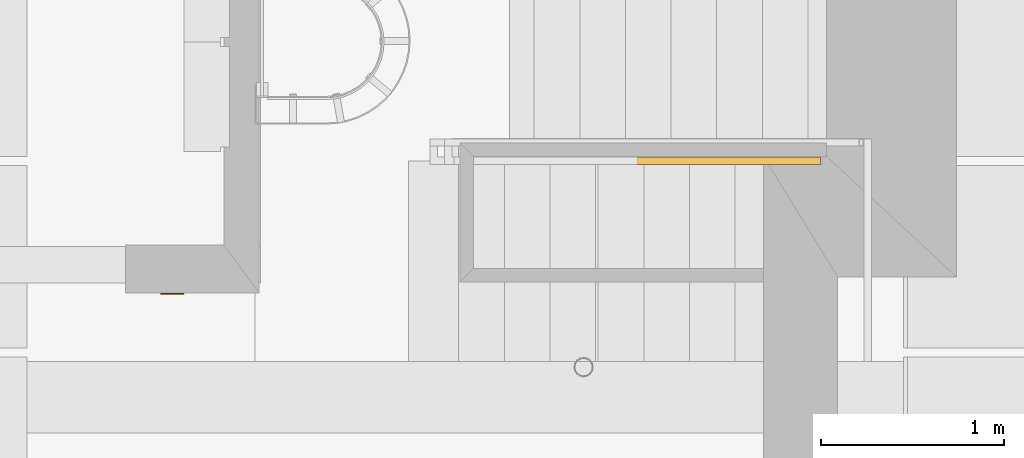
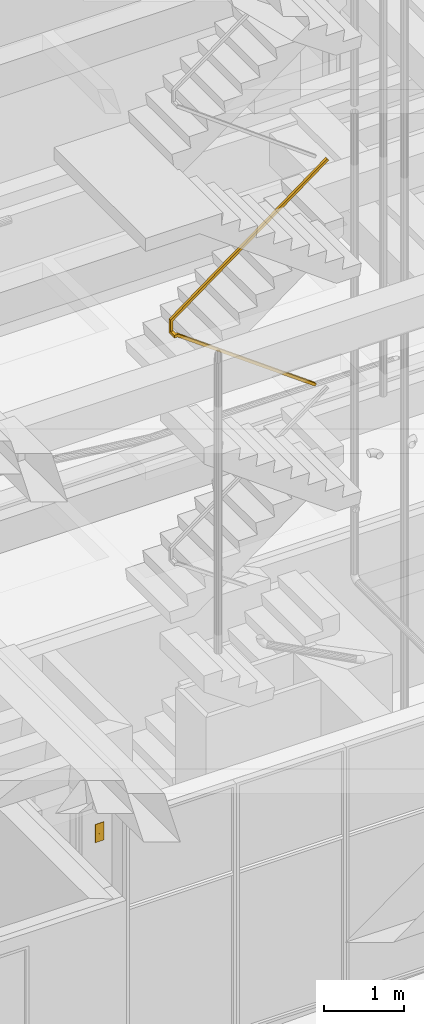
# One storey, part 29 of 106: 1 door, 1 railing.
"""IFC2X3 building model written with IfcOpenShell, lengths in metres."""

from ifc_helpers import new_model, entity, si_unit, converted_unit, derived_unit, money_unit, direction, frame, origin_with_axes, place, context, subcontext, project, spatial, faceted_brep, material, type_object, element, save


model = new_model("IFC2X3")

# Units and contexts
model_context = context("Model", 3, precision=1e-05, world=origin_with_axes(), true_north=direction((0.0, 1.0)))
body_context = subcontext(model_context, "Body", "Model", "MODEL_VIEW", scale=1.0)
ifc_project = project(units=[si_unit("LENGTHUNIT", "METRE"), si_unit("AREAUNIT", "SQUARE_METRE"), si_unit("VOLUMEUNIT", "CUBIC_METRE"), si_unit("ABSORBEDDOSEUNIT", "GRAY"), si_unit("AMOUNTOFSUBSTANCEUNIT", "MOLE"), si_unit("DOSEEQUIVALENTUNIT", "SIEVERT"), si_unit("ELECTRICCAPACITANCEUNIT", "FARAD"), si_unit("ELECTRICCHARGEUNIT", "COULOMB"), si_unit("ELECTRICCONDUCTANCEUNIT", "SIEMENS"), si_unit("ELECTRICCURRENTUNIT", "AMPERE"), si_unit("ELECTRICRESISTANCEUNIT", "OHM"), si_unit("ELECTRICVOLTAGEUNIT", "VOLT"), si_unit("ENERGYUNIT", "JOULE"), si_unit("FORCEUNIT", "NEWTON"), si_unit("FREQUENCYUNIT", "HERTZ"), si_unit("ILLUMINANCEUNIT", "LUX"), si_unit("INDUCTANCEUNIT", "HENRY"), si_unit("LUMINOUSFLUXUNIT", "LUMEN"), si_unit("LUMINOUSINTENSITYUNIT", "CANDELA"), si_unit("MAGNETICFLUXDENSITYUNIT", "TESLA"), si_unit("MAGNETICFLUXUNIT", "WEBER"), si_unit("MASSUNIT", "GRAM"), converted_unit("PLANEANGLEUNIT", "degree", entity("IfcReal", 0.0174532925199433), si_unit("PLANEANGLEUNIT", "RADIAN"), dimensions=[0, 0, 0, 0, 0, 0, 0]), si_unit("POWERUNIT", "WATT"), si_unit("PRESSUREUNIT", "PASCAL"), si_unit("RADIOACTIVITYUNIT", "BECQUEREL"), si_unit("SOLIDANGLEUNIT", "STERADIAN"), si_unit("THERMODYNAMICTEMPERATUREUNIT", "KELVIN"), si_unit("TIMEUNIT", "SECOND"), derived_unit("ACCELERATIONUNIT", [(si_unit("LENGTHUNIT", "METRE"), 1), (si_unit("TIMEUNIT", "SECOND"), -2)]), derived_unit("ANGULARVELOCITYUNIT", [(converted_unit("PLANEANGLEUNIT", "degree", entity("IfcReal", 0.0174532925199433), si_unit("PLANEANGLEUNIT", "RADIAN"), dimensions=[0, 0, 0, 0, 0, 0, 0]), 1), (si_unit("TIMEUNIT", "SECOND"), -1)]), derived_unit("CURVATUREUNIT", [(converted_unit("PLANEANGLEUNIT", "degree", entity("IfcReal", 0.0174532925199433), si_unit("PLANEANGLEUNIT", "RADIAN"), dimensions=[0, 0, 0, 0, 0, 0, 0]), 1), (si_unit("LENGTHUNIT", "METRE"), -1)]), derived_unit("DYNAMICVISCOSITYUNIT", [(si_unit("PRESSUREUNIT", "PASCAL"), 1), (si_unit("TIMEUNIT", "SECOND"), 1)]), derived_unit("HEATFLUXDENSITYUNIT", [(si_unit("POWERUNIT", "WATT"), 1), (si_unit("LENGTHUNIT", "METRE"), -2)]), derived_unit("HEATINGVALUEUNIT", [(si_unit("ENERGYUNIT", "JOULE"), 1), (si_unit("MASSUNIT", "GRAM"), -1)]), derived_unit("INTEGERCOUNTRATEUNIT", [(si_unit("TIMEUNIT", "SECOND"), -1)]), derived_unit("IONCONCENTRATIONUNIT", [(si_unit("MASSUNIT", "GRAM"), 1), (si_unit("VOLUMEUNIT", "CUBIC_METRE"), -1)]), derived_unit("ISOTHERMALMOISTURECAPACITYUNIT", [(si_unit("VOLUMEUNIT", "CUBIC_METRE"), 1), (si_unit("MASSUNIT", "GRAM"), -1)]), derived_unit("KINEMATICVISCOSITYUNIT", [(si_unit("AREAUNIT", "SQUARE_METRE"), 1), (si_unit("TIMEUNIT", "SECOND"), -1)]), derived_unit("LINEARFORCEUNIT", [(si_unit("FORCEUNIT", "NEWTON"), 1), (si_unit("LENGTHUNIT", "METRE"), -1)]), derived_unit("LINEARMOMENTUNIT", [(si_unit("FORCEUNIT", "NEWTON"), 1), (si_unit("LENGTHUNIT", "METRE"), -1)]), derived_unit("LINEARSTIFFNESSUNIT", [(si_unit("FORCEUNIT", "NEWTON"), 1), (si_unit("LENGTHUNIT", "METRE"), -1)]), derived_unit("LINEARVELOCITYUNIT", [(si_unit("LENGTHUNIT", "METRE"), 1), (si_unit("TIMEUNIT", "SECOND"), -1)]), derived_unit("LUMINOUSINTENSITYDISTRIBUTIONUNIT", [(si_unit("LUMINOUSINTENSITYUNIT", "CANDELA"), 1), (si_unit("LUMINOUSFLUXUNIT", "LUMEN"), -1)]), derived_unit("MASSDENSITYUNIT", [(si_unit("MASSUNIT", "GRAM"), 1), (si_unit("VOLUMEUNIT", "CUBIC_METRE"), -1)]), derived_unit("MASSFLOWRATEUNIT", [(si_unit("MASSUNIT", "GRAM"), 1), (si_unit("TIMEUNIT", "SECOND"), -1)]), derived_unit("MASSPERLENGTHUNIT", [(si_unit("MASSUNIT", "GRAM"), 1), (si_unit("LENGTHUNIT", "METRE"), -1)]), derived_unit("MODULUSOFELASTICITYUNIT", [(si_unit("FORCEUNIT", "NEWTON"), 1), (si_unit("AREAUNIT", "SQUARE_METRE"), -1)]), derived_unit("MODULUSOFLINEARSUBGRADEREACTIONUNIT", [(si_unit("FORCEUNIT", "NEWTON"), 1), (si_unit("LENGTHUNIT", "METRE"), -2)]), derived_unit("MODULUSOFROTATIONALSUBGRADEREACTIONUNIT", [(si_unit("FORCEUNIT", "NEWTON"), 1), (si_unit("LENGTHUNIT", "METRE"), 1)]), derived_unit("MODULUSOFSUBGRADEREACTIONUNIT", [(si_unit("FORCEUNIT", "NEWTON"), 1), (si_unit("VOLUMEUNIT", "CUBIC_METRE"), -1)]), derived_unit("MOISTUREDIFFUSIVITYUNIT", [(si_unit("VOLUMEUNIT", "CUBIC_METRE"), 1), (si_unit("TIMEUNIT", "SECOND"), -1)]), derived_unit("MOLECULARWEIGHTUNIT", [(si_unit("MASSUNIT", "GRAM"), 1), (si_unit("AMOUNTOFSUBSTANCEUNIT", "MOLE"), -1)]), derived_unit("PLANARFORCEUNIT", [(si_unit("FORCEUNIT", "NEWTON"), 1), (si_unit("LENGTHUNIT", "METRE"), -2)]), derived_unit("ROTATIONALFREQUENCYUNIT", [(si_unit("TIMEUNIT", "SECOND"), -1)]), derived_unit("ROTATIONALMASSUNIT", [(si_unit("MASSUNIT", "GRAM"), 1), (si_unit("LENGTHUNIT", "METRE"), 2)]), derived_unit("ROTATIONALSTIFFNESSUNIT", [(si_unit("FORCEUNIT", "NEWTON"), 1), (si_unit("LENGTHUNIT", "METRE"), 1), (converted_unit("PLANEANGLEUNIT", "degree", entity("IfcReal", 0.0174532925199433), si_unit("PLANEANGLEUNIT", "RADIAN"), dimensions=[0, 0, 0, 0, 0, 0, 0]), -1)]), derived_unit("SECTIONAREAINTEGRALUNIT", [(si_unit("LENGTHUNIT", "METRE"), 5)]), derived_unit("SECTIONMODULUSUNIT", [(si_unit("LENGTHUNIT", "METRE"), 3)]), derived_unit("SHEARMODULUSUNIT", [(si_unit("FORCEUNIT", "NEWTON"), 1), (si_unit("AREAUNIT", "SQUARE_METRE"), -1)]), derived_unit("SOUNDPOWERUNIT", [(si_unit("ENERGYUNIT", "JOULE"), 1), (si_unit("TIMEUNIT", "SECOND"), -1)]), derived_unit("SPECIFICHEATCAPACITYUNIT", [(si_unit("FORCEUNIT", "NEWTON"), 1), (si_unit("MASSUNIT", "GRAM"), -1), (si_unit("THERMODYNAMICTEMPERATUREUNIT", "KELVIN"), -1)]), derived_unit("TEMPERATUREGRADIENTUNIT", [(si_unit("THERMODYNAMICTEMPERATUREUNIT", "KELVIN"), 1), (si_unit("LENGTHUNIT", "METRE"), -1)]), derived_unit("THERMALADMITTANCEUNIT", [(si_unit("POWERUNIT", "WATT"), 1), (si_unit("AREAUNIT", "SQUARE_METRE"), -1), (si_unit("THERMODYNAMICTEMPERATUREUNIT", "KELVIN"), -1)]), derived_unit("THERMALCONDUCTANCEUNIT", [(si_unit("POWERUNIT", "WATT"), 1), (si_unit("LENGTHUNIT", "METRE"), -1), (si_unit("THERMODYNAMICTEMPERATUREUNIT", "KELVIN"), -1)]), derived_unit("THERMALEXPANSIONCOEFFICIENTUNIT", [(si_unit("THERMODYNAMICTEMPERATUREUNIT", "KELVIN"), -1)]), derived_unit("THERMALRESISTANCEUNIT", [(si_unit("AREAUNIT", "SQUARE_METRE"), 1), (si_unit("POWERUNIT", "WATT"), -1)]), derived_unit("THERMALTRANSMITTANCEUNIT", [(si_unit("POWERUNIT", "WATT"), 1), (si_unit("AREAUNIT", "SQUARE_METRE"), -1), (si_unit("THERMODYNAMICTEMPERATUREUNIT", "KELVIN"), -1)]), derived_unit("TORQUEUNIT", [(si_unit("FORCEUNIT", "NEWTON"), 1), (si_unit("LENGTHUNIT", "METRE"), 1)]), derived_unit("VAPORPERMEABILITYUNIT", [(si_unit("MASSUNIT", "GRAM"), 1), (si_unit("TIMEUNIT", "SECOND"), -1)]), derived_unit("VOLUMETRICFLOWRATEUNIT", [(si_unit("VOLUMEUNIT", "CUBIC_METRE"), 1), (si_unit("TIMEUNIT", "SECOND"), -1)]), derived_unit("WARPINGCONSTANTUNIT", [(si_unit("LENGTHUNIT", "METRE"), 6)]), derived_unit("WARPINGMOMENTUNIT", [(si_unit("FORCEUNIT", "NEWTON"), 1), (si_unit("LENGTHUNIT", "METRE"), 2)]), money_unit("GBP")], contexts=[model_context])

# Site, building, storey, space
site_placement = place(None, origin_with_axes())
site = spatial("IfcSite", under=ifc_project, at=site_placement, Name="Site", CompositionType="ELEMENT")
building_placement = place(site_placement, origin_with_axes())
building = spatial("IfcBuilding", under=site, at=building_placement, Name="Building01", CompositionType="ELEMENT")
storey_placement = place(building_placement, origin_with_axes())
storey = spatial("IfcBuildingStorey", under=building, at=storey_placement, Name="GF", CompositionType="ELEMENT", Elevation=0.0)
space_placement = place(storey_placement, frame((9.419099, 6.725761, 0.0), z_axis=(0.0, 0.0, 1.0), x_axis=(0.0, -1.0, 0.0)))
space = spatial("IfcSpace", under=storey, at=space_placement, Name="ENTRANCE", CompositionType="ELEMENT", InteriorOrExteriorSpace="NOTDEFINED")

# Door
ifc_material_1 = material(Name="A_BSUK_Doors")
door_style = type_object("IfcDoorStyle", Name="A-ElevatorCallButton", ConstructionType="USERDEFINED", ParameterTakesPrecedence=False, Sizeable=False)
door_placement = place(storey_placement, frame((10.783958, 6.725761, 1.0), z_axis=(0.0, 0.0, 1.0), x_axis=(1.0, 0.0, 0.0)))
element("IfcDoor", 1, at=door_placement, inside=space, type_object=door_style, material=ifc_material_1, Name="A-ElevatorCallButton", ObjectType="A-ElevatorCallButton", OverallHeight=0.2794, OverallWidth=0.127, context=body_context, shape_type="Brep", body=[
    faceted_brep([(0.0, 0.0, 0.2794), (0.127, 0.0, 0.2794), (0.127, 0.0, 0.0), (0.0, 0.0, 0.0), (0.0, -0.00635, 0.0), (0.127, -0.00635, 0.0), (0.127, -0.00635, 0.2794), (0.0, -0.00635, 0.2794)], [[[0, 1, 2, 3]], [[4, 3, 2, 5]], [[4, 5, 6, 7]], [[5, 2, 1, 6]], [[6, 1, 0, 7]], [[7, 0, 3, 4]]]),
    faceted_brep([(0.068085, -0.00635, 0.099282), (0.063204, -0.00635, 0.098428), (0.058368, -0.00635, 0.099508), (0.054313, -0.00635, 0.102357), (0.051657, -0.00635, 0.10654), (0.050803, -0.00635, 0.111421), (0.051883, -0.00635, 0.116257), (0.054732, -0.00635, 0.120312), (0.058915, -0.00635, 0.122968), (0.063796, -0.00635, 0.123822), (0.068632, -0.00635, 0.122742), (0.072687, -0.00635, 0.119893), (0.075343, -0.00635, 0.11571), (0.076197, -0.00635, 0.110829), (0.075117, -0.00635, 0.105993), (0.072268, -0.00635, 0.101938), (0.054732, -0.009525, 0.120312), (0.058915, -0.009525, 0.122968), (0.063796, -0.009525, 0.123822), (0.068632, -0.009525, 0.122742), (0.072687, -0.009525, 0.119893), (0.075343, -0.009525, 0.11571), (0.076197, -0.009525, 0.110829), (0.075117, -0.009525, 0.105993), (0.072268, -0.009525, 0.101938), (0.068085, -0.009525, 0.099282), (0.063204, -0.009525, 0.098428), (0.058368, -0.009525, 0.099508), (0.054313, -0.009525, 0.102357), (0.051657, -0.009525, 0.10654), (0.050803, -0.009525, 0.111421), (0.051883, -0.009525, 0.116257)], [[[0, 1, 2, 3, 4, 5, 6, 7, 8, 9, 10, 11, 12, 13, 14, 15]], [[7, 16, 17, 8]], [[8, 17, 18, 9]], [[9, 18, 19, 10]], [[10, 19, 20, 11]], [[11, 20, 21, 12]], [[12, 21, 22, 13]], [[13, 22, 23, 14]], [[14, 23, 24, 15]], [[15, 24, 25, 0]], [[0, 25, 26, 1]], [[1, 26, 27, 2]], [[2, 27, 28, 3]], [[3, 28, 29, 4]], [[4, 29, 30, 5]], [[5, 30, 31, 6]], [[6, 31, 16, 7]], [[23, 22, 21, 20, 19, 18, 17, 16, 31, 30, 29, 28, 27, 26, 25, 24]]]),
    faceted_brep([(0.073576, -0.00635, 0.160544), (0.06985, -0.00635, 0.157276), (0.065158, -0.00635, 0.155684), (0.060213, -0.00635, 0.156008), (0.055769, -0.00635, 0.158199), (0.052501, -0.00635, 0.161925), (0.050909, -0.00635, 0.166617), (0.051233, -0.00635, 0.171562), (0.053424, -0.00635, 0.176006), (0.05715, -0.00635, 0.179274), (0.061842, -0.00635, 0.180866), (0.066787, -0.00635, 0.180542), (0.071231, -0.00635, 0.178351), (0.074499, -0.00635, 0.174625), (0.076091, -0.00635, 0.169933), (0.075767, -0.00635, 0.164988), (0.051233, -0.009525, 0.171562), (0.053424, -0.009525, 0.176006), (0.05715, -0.009525, 0.179274), (0.061842, -0.009525, 0.180866), (0.066787, -0.009525, 0.180542), (0.071231, -0.009525, 0.178351), (0.074499, -0.009525, 0.174625), (0.076091, -0.009525, 0.169933), (0.075767, -0.009525, 0.164988), (0.073576, -0.009525, 0.160544), (0.06985, -0.009525, 0.157276), (0.065158, -0.009525, 0.155684), (0.060213, -0.009525, 0.156008), (0.055769, -0.009525, 0.158199), (0.052501, -0.009525, 0.161925), (0.050909, -0.009525, 0.166617)], [[[0, 1, 2, 3, 4, 5, 6, 7, 8, 9, 10, 11, 12, 13, 14, 15]], [[7, 16, 17, 8]], [[8, 17, 18, 9]], [[9, 18, 19, 10]], [[10, 19, 20, 11]], [[11, 20, 21, 12]], [[12, 21, 22, 13]], [[13, 22, 23, 14]], [[14, 23, 24, 15]], [[15, 24, 25, 0]], [[0, 25, 26, 1]], [[1, 26, 27, 2]], [[2, 27, 28, 3]], [[3, 28, 29, 4]], [[4, 29, 30, 5]], [[5, 30, 31, 6]], [[6, 31, 16, 7]], [[23, 22, 21, 20, 19, 18, 17, 16, 31, 30, 29, 28, 27, 26, 25, 24]]]),
])

# Railing
ifc_material_2 = material(Name="A_BSUK_Steel_Miscellaneous")
railing_type = type_object("IfcRailingType", Name="A-Handrail-900mm", PredefinedType="NOTDEFINED")
railing_placement = place(storey_placement, frame((14.609584, 7.55, 8.74), z_axis=(0.0, 0.0, 1.0), x_axis=(1.0, 0.0, 0.0)))
element("IfcRailing", 2, at=railing_placement, inside=storey, type_object=railing_type, material=ifc_material_2, Name="A-Handrail-900mm", ObjectType="A-Handrail-900mm", PredefinedType="HANDRAIL", context=body_context, shape_type="Brep", body=[
    faceted_brep([(-0.726206, -0.02, 0.312846), (-0.75, -0.02, 0.345), (-0.75, 0.02, 0.345), (-0.726206, 0.02, 0.312846), (-0.728586, -0.016, 0.316062), (-0.728586, 0.016, 0.316062), (-0.747621, 0.016, 0.341785), (-0.747621, -0.016, 0.341785), (0.023794, 0.02, 0.867846), (0.0, 0.02, 0.9), (0.0, -0.02, 0.9), (0.023794, -0.02, 0.867846), (0.021414, -0.016, 0.871062), (0.002379, -0.016, 0.896785), (0.002379, 0.016, 0.896785), (0.021414, 0.016, 0.871062)], [[[0, 1, 2, 3], [4, 5, 6, 7]], [[8, 9, 10, 11], [12, 13, 14, 15]], [[11, 0, 3, 8]], [[10, 1, 0, 11]], [[9, 2, 1, 10]], [[8, 3, 2, 9]], [[15, 5, 4, 12]], [[12, 4, 7, 13]], [[13, 7, 6, 14]], [[14, 6, 5, 15]]]),
    faceted_brep([(-1.476206, -0.02, -0.242154), (-1.5, -0.02, -0.21), (-1.5, 0.02, -0.21), (-1.476206, 0.02, -0.242154), (-1.478586, -0.016, -0.238938), (-1.478586, 0.016, -0.238938), (-1.497621, 0.016, -0.213215), (-1.497621, -0.016, -0.213215), (-0.726206, 0.02, 0.312846), (-0.75, 0.02, 0.345), (-0.75, -0.02, 0.345), (-0.726206, -0.02, 0.312846), (-0.728586, -0.016, 0.316062), (-0.747621, -0.016, 0.341785), (-0.747621, 0.016, 0.341785), (-0.728586, 0.016, 0.316062)], [[[0, 1, 2, 3], [4, 5, 6, 7]], [[8, 9, 10, 11], [12, 13, 14, 15]], [[11, 0, 3, 8]], [[10, 1, 0, 11]], [[9, 2, 1, 10]], [[8, 3, 2, 9]], [[15, 5, 4, 12]], [[12, 4, 7, 13]], [[13, 7, 6, 14]], [[14, 6, 5, 15]]]),
    faceted_brep([(-1.476206, 0.02, -0.242154), (-1.5, 0.02, -0.21), (-1.5, -0.02, -0.21), (-1.476206, -0.02, -0.242154), (-1.478586, -0.016, -0.238938), (-1.497621, -0.016, -0.213215), (-1.497621, 0.016, -0.213215), (-1.478586, 0.016, -0.238938), (-2.23, -0.02, -0.799961), (-2.23, 0.02, -0.799961), (-2.27, -0.02, -0.7798), (-2.27, 0.02, -0.7798), (-2.234, -0.016, -0.797945), (-2.234, 0.016, -0.797945), (-2.266, -0.016, -0.781816), (-2.266, 0.016, -0.781816)], [[[0, 1, 2, 3], [4, 5, 6, 7]], [[8, 9, 0, 3]], [[10, 8, 3, 2]], [[11, 10, 2, 1]], [[9, 11, 1, 0]], [[12, 4, 7, 13]], [[14, 5, 4, 12]], [[15, 6, 5, 14]], [[13, 7, 6, 15]], [[8, 10, 11, 9], [12, 13, 15, 14]]]),
    faceted_brep([(-2.27, 0.02, -0.7798), (-2.23, 0.02, -0.799961), (-2.23, 0.02, -0.99), (-2.27, 0.02, -0.99), (-2.23, -0.02, -0.95), (-2.23, -0.02, -0.799961), (-2.27, -0.02, -0.95), (-2.27, -0.02, -0.7798), (-2.234, 0.016, -0.986), (-2.234, 0.016, -0.797945), (-2.266, 0.016, -0.781816), (-2.266, 0.016, -0.986), (-2.234, -0.016, -0.954), (-2.234, -0.016, -0.797945), (-2.266, -0.016, -0.954), (-2.266, -0.016, -0.781816)], [[[0, 1, 2, 3]], [[4, 2, 1, 5]], [[6, 4, 5, 7]], [[3, 6, 7, 0]], [[8, 9, 10, 11]], [[12, 13, 9, 8]], [[14, 15, 13, 12]], [[11, 10, 15, 14]], [[0, 7, 5, 1], [10, 9, 13, 15]], [[2, 4, 6, 3], [8, 11, 14, 12]]]),
    faceted_brep([(-2.23, -0.08, -0.99), (-2.27, -0.12, -0.99), (-2.27, 0.02, -0.99), (-2.23, 0.02, -0.99), (-2.23, -0.08, -0.95), (-2.23, -0.02, -0.95), (-2.27, -0.12, -0.95), (-2.27, -0.02, -0.95), (-2.234, -0.084, -0.986), (-2.234, 0.016, -0.986), (-2.266, 0.016, -0.986), (-2.266, -0.116, -0.986), (-2.234, -0.084, -0.954), (-2.234, -0.016, -0.954), (-2.266, -0.116, -0.954), (-2.266, -0.016, -0.954)], [[[0, 1, 2, 3]], [[4, 0, 3, 5]], [[6, 4, 5, 7]], [[7, 2, 1, 6]], [[8, 9, 10, 11]], [[12, 13, 9, 8]], [[14, 15, 13, 12]], [[11, 10, 15, 14]], [[2, 7, 5, 3], [10, 9, 13, 15]], [[0, 4, 6, 1], [8, 11, 14, 12]]]),
    faceted_brep([(-2.224951, -0.08, -0.99), (-2.224951, -0.12, -0.99), (-2.27, -0.12, -0.99), (-2.23, -0.08, -0.99), (-2.21192, -0.08, -0.95), (-2.23, -0.08, -0.95), (-2.21192, -0.12, -0.95), (-2.27, -0.12, -0.95), (-2.223648, -0.084, -0.986), (-2.234, -0.084, -0.986), (-2.266, -0.116, -0.986), (-2.223648, -0.116, -0.986), (-2.213223, -0.084, -0.954), (-2.234, -0.084, -0.954), (-2.213223, -0.116, -0.954), (-2.266, -0.116, -0.954)], [[[0, 1, 2, 3]], [[4, 0, 3, 5]], [[6, 4, 5, 7]], [[1, 6, 7, 2]], [[8, 9, 10, 11]], [[12, 13, 9, 8]], [[14, 15, 13, 12]], [[11, 10, 15, 14]], [[2, 7, 5, 3], [10, 9, 13, 15]], [[0, 4, 6, 1], [8, 11, 14, 12]]]),
    faceted_brep([(-0.235481, -0.079988, -2.440102), (-0.21192, -0.079987, -2.407778), (-0.21192, -0.119987, -2.407778), (-0.235481, -0.119988, -2.440102), (-0.233125, -0.083988, -2.43687), (-0.233125, -0.115988, -2.43687), (-0.214276, -0.115987, -2.41101), (-0.214276, -0.083987, -2.41101), (-2.224951, -0.12, -0.99), (-2.224951, -0.08, -0.99), (-2.21192, -0.08, -0.95), (-2.21192, -0.12, -0.95), (-2.223648, -0.116, -0.986), (-2.223648, -0.084, -0.986), (-2.213223, -0.084, -0.954), (-2.213223, -0.116, -0.954)], [[[0, 1, 2, 3], [4, 5, 6, 7]], [[8, 9, 0, 3]], [[9, 10, 1, 0]], [[10, 11, 2, 1]], [[11, 8, 3, 2]], [[12, 5, 4, 13]], [[13, 4, 7, 14]], [[14, 7, 6, 15]], [[15, 6, 5, 12]], [[8, 11, 10, 9], [12, 13, 14, 15]]]),
])

save(model, "model.ifc")
